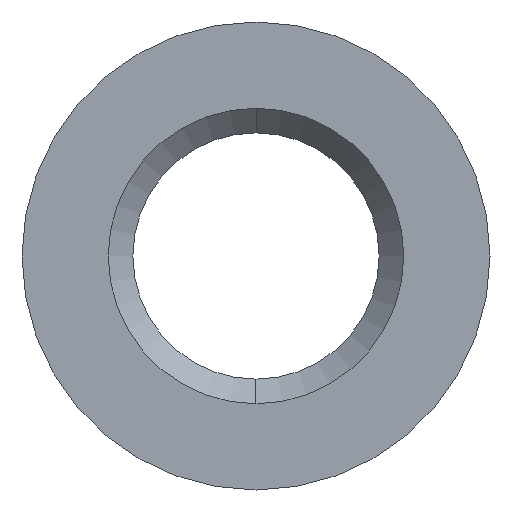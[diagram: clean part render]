
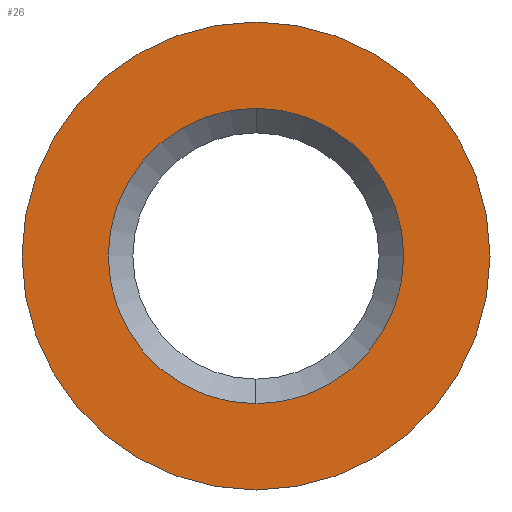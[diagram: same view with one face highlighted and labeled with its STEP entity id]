
A CAD part, left-side view. The second image highlights one B-rep face of the part: STEP entity #26.
In plain terms, the highlighted planar face has unit normal (-1, 0, 0).
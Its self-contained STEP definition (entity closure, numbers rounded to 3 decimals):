
#6 = AXIS2_PLACEMENT_3D ( 'NONE', #656, #735, #785 ) ;
#14 = CARTESIAN_POINT ( 'NONE',  ( -7.67, 0., 3. ) ) ;
#15 = EDGE_CURVE ( 'NONE', #29, #457, #198, .T. ) ;
#24 = DIRECTION ( 'NONE',  ( 0., 0., 1. ) ) ;
#26 = ADVANCED_FACE ( 'NONE', ( #716, #217 ), #537, .T. ) ;
#29 = VERTEX_POINT ( 'NONE', #525 ) ;
#80 = DIRECTION ( 'NONE',  ( 0., 0., 1. ) ) ;
#89 = DIRECTION ( 'NONE',  ( -1., 0., 0. ) ) ;
#117 = EDGE_LOOP ( 'NONE', ( #379, #710 ) ) ;
#125 = CARTESIAN_POINT ( 'NONE',  ( -7.67, 0., -3. ) ) ;
#134 = CARTESIAN_POINT ( 'NONE',  ( -7.67, 0., 0. ) ) ;
#197 = AXIS2_PLACEMENT_3D ( 'NONE', #531, #586, #80 ) ;
#198 = CIRCLE ( 'NONE', #321, 4.75 ) ;
#217 = FACE_OUTER_BOUND ( 'NONE', #117, .T. ) ;
#240 = CIRCLE ( 'NONE', #412, 3. ) ;
#254 = EDGE_CURVE ( 'NONE', #360, #763, #357, .T. ) ;
#321 = AXIS2_PLACEMENT_3D ( 'NONE', #134, #750, #635 ) ;
#326 = DIRECTION ( 'NONE',  ( 1., 0., 0. ) ) ;
#357 = CIRCLE ( 'NONE', #6, 3. ) ;
#360 = VERTEX_POINT ( 'NONE', #14 ) ;
#379 = ORIENTED_EDGE ( 'NONE', *, *, #574, .T. ) ;
#387 = ORIENTED_EDGE ( 'NONE', *, *, #254, .T. ) ;
#412 = AXIS2_PLACEMENT_3D ( 'NONE', #688, #326, #694 ) ;
#457 = VERTEX_POINT ( 'NONE', #746 ) ;
#463 = EDGE_CURVE ( 'NONE', #763, #360, #240, .T. ) ;
#474 = CARTESIAN_POINT ( 'NONE',  ( -7.67, 0., 0. ) ) ;
#488 = EDGE_LOOP ( 'NONE', ( #387, #768 ) ) ;
#525 = CARTESIAN_POINT ( 'NONE',  ( -7.67, 0., 4.75 ) ) ;
#531 = CARTESIAN_POINT ( 'NONE',  ( -7.67, 0., 0. ) ) ;
#537 = PLANE ( 'NONE',  #567 ) ;
#567 = AXIS2_PLACEMENT_3D ( 'NONE', #474, #89, #24 ) ;
#574 = EDGE_CURVE ( 'NONE', #457, #29, #718, .T. ) ;
#586 = DIRECTION ( 'NONE',  ( -1., 0., 0. ) ) ;
#635 = DIRECTION ( 'NONE',  ( 0., 0., 1. ) ) ;
#656 = CARTESIAN_POINT ( 'NONE',  ( -7.67, 0., 0. ) ) ;
#688 = CARTESIAN_POINT ( 'NONE',  ( -7.67, 0., 0. ) ) ;
#694 = DIRECTION ( 'NONE',  ( 0., 0., 1. ) ) ;
#710 = ORIENTED_EDGE ( 'NONE', *, *, #15, .T. ) ;
#716 = FACE_BOUND ( 'NONE', #488, .T. ) ;
#718 = CIRCLE ( 'NONE', #197, 4.75 ) ;
#735 = DIRECTION ( 'NONE',  ( 1., 0., 0. ) ) ;
#746 = CARTESIAN_POINT ( 'NONE',  ( -7.67, 0., -4.75 ) ) ;
#750 = DIRECTION ( 'NONE',  ( -1., 0., 0. ) ) ;
#763 = VERTEX_POINT ( 'NONE', #125 ) ;
#768 = ORIENTED_EDGE ( 'NONE', *, *, #463, .T. ) ;
#785 = DIRECTION ( 'NONE',  ( 0., 0., 1. ) ) ;
